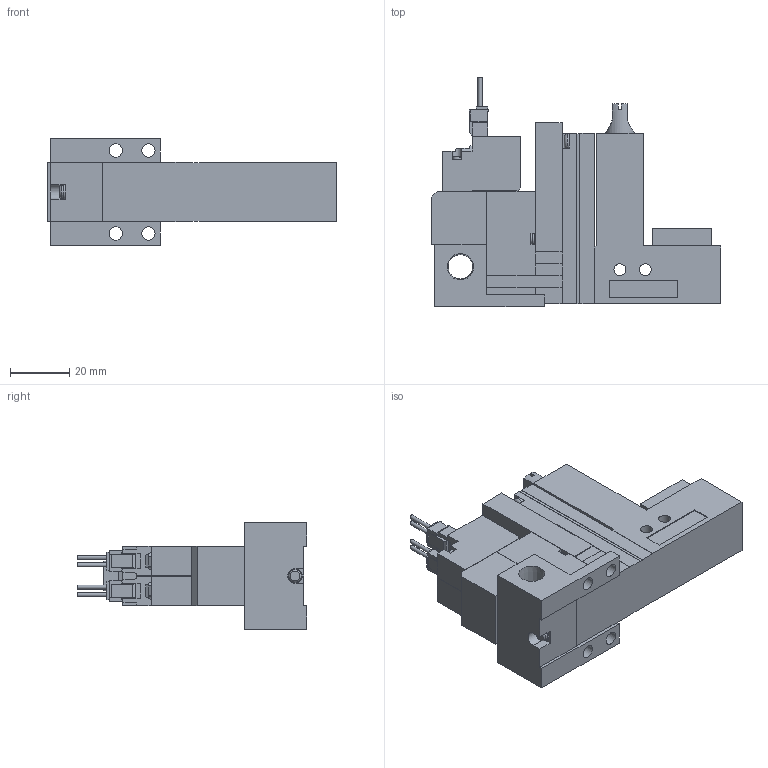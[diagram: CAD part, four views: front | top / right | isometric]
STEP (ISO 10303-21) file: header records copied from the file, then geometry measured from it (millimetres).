
FILE_DESCRIPTION(('STEP AP203'),'1');
FILE_NAME('ZLC5BLR101.stp','2025-02-18T05:18:32',(' '),(' '),'Spatial InterOp 3D',' ',' ');
FILE_SCHEMA(('CONFIG_CONTROL_DESIGN'));
Length unit declared in the file: millimetre
Products named in the file (5): BMC22M※※※※ZLC5BLR101; Solenoid valve B; Pressure sensor ZLC; Unit LC; Base MR10R
Assembly tree (4 placements, depth 2):
  BMC22M※※※※ZLC5BLR101
    Solenoid valve B
    Pressure sensor ZLC
    Unit LC
    Base MR10R
Bounding box: 97.6 x 77.45 x 36 mm (x, y, z)
Volume: 93854.4 mm3; surface area: 26339.8 mm2
Topology: 4 solids, 4 shells, 379 faces, 1032 edges, 679 vertices
Faces by surface type: plane 324, cylinder 41, cone 9, torus 5
Full cylindrical faces by diameter (mm): 1.4 x4, 2.5 x1, 3 x4, 3.5 x4, 3.6 x1, 4 x2, 4.134 x1, 4.5 x4, 5.2 x1, 6 x1, 6.6 x1, 8.279 x1
Entity records: 11907 total; most frequent: CARTESIAN_POINT 2216, ORIENTED_EDGE 1948, DIRECTION 1860, EDGE_CURVE 974, LINE 842, VECTOR 842, VERTEX_POINT 664, AXIS2_PLACEMENT_3D 509
